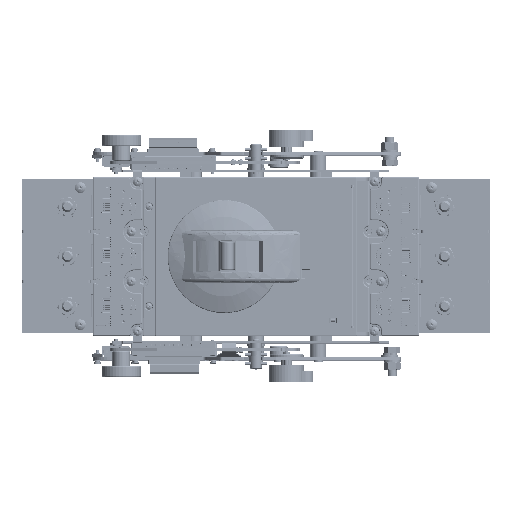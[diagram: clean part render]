
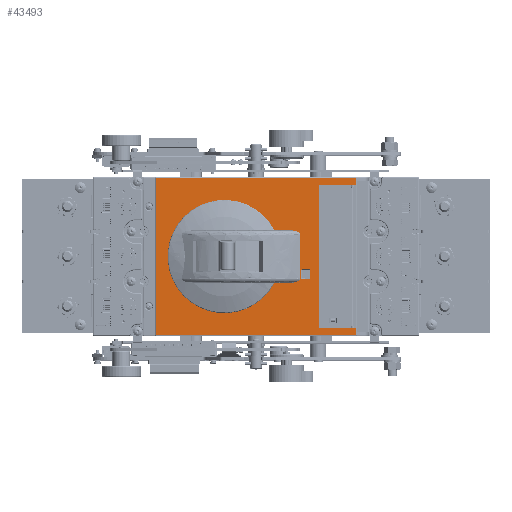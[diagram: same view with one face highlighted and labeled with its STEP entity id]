
A CAD part, top view. The second image highlights one B-rep face of the part: STEP entity #43493.
In plain terms, the highlighted planar face has unit normal (0, 0, 1).
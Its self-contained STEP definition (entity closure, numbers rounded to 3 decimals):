
#43493=ADVANCED_FACE('',(#101062,#101063,#101064),#68351,.T.);
#68351=PLANE('',#499178);
#83766=CIRCLE('',#499171,1.);
#83767=CIRCLE('',#499172,1.);
#83768=CIRCLE('',#499173,1.);
#83769=CIRCLE('',#499174,1.);
#83770=CIRCLE('',#499175,50.);
#83771=CIRCLE('',#499176,1.);
#83772=CIRCLE('',#499177,1.);
#101062=FACE_BOUND('',#115495,.T.);
#101063=FACE_BOUND('',#115496,.T.);
#101064=FACE_BOUND('',#115497,.T.);
#115495=EDGE_LOOP('',(#261193,#261194,#261195,#261196,#261197,#261198,#261199,
#261200));
#115496=EDGE_LOOP('',(#261201,#261202,#261203,#261204,#261205,#261206));
#115497=EDGE_LOOP('',(#261207,#261208,#261209,#261210,#261211,#261212,#261213,
#261214,#261215,#261216));
#153215=LINE('',#714080,#198606);
#153216=LINE('',#714085,#198607);
#153217=LINE('',#714089,#198608);
#153218=LINE('',#714093,#198609);
#153219=LINE('',#714099,#198610);
#153220=LINE('',#714110,#198611);
#153221=LINE('',#714121,#198612);
#153222=LINE('',#714122,#198613);
#153223=LINE('',#714125,#198614);
#153224=LINE('',#714127,#198615);
#153225=LINE('',#714129,#198616);
#153226=LINE('',#714131,#198617);
#153227=LINE('',#714133,#198618);
#153228=LINE('',#714137,#198619);
#153229=LINE('',#714141,#198620);
#198606=VECTOR('',#565952,1.);
#198607=VECTOR('',#565955,1.);
#198608=VECTOR('',#565958,1.);
#198609=VECTOR('',#565961,1.);
#198610=VECTOR('',#565966,1.);
#198611=VECTOR('',#565967,1.);
#198612=VECTOR('',#565968,1.);
#198613=VECTOR('',#565969,1.);
#198614=VECTOR('',#565970,1.);
#198615=VECTOR('',#565971,1.);
#198616=VECTOR('',#565972,1.);
#198617=VECTOR('',#565973,1.);
#198618=VECTOR('',#565974,1.);
#198619=VECTOR('',#565977,1.);
#198620=VECTOR('',#565980,1.);
#261193=ORIENTED_EDGE('',*,*,#433195,.T.);
#261194=ORIENTED_EDGE('',*,*,#433196,.T.);
#261195=ORIENTED_EDGE('',*,*,#433197,.T.);
#261196=ORIENTED_EDGE('',*,*,#433198,.T.);
#261197=ORIENTED_EDGE('',*,*,#433199,.T.);
#261198=ORIENTED_EDGE('',*,*,#433200,.T.);
#261199=ORIENTED_EDGE('',*,*,#433201,.T.);
#261200=ORIENTED_EDGE('',*,*,#433202,.T.);
#261201=ORIENTED_EDGE('',*,*,#433203,.T.);
#261202=ORIENTED_EDGE('',*,*,#433204,.F.);
#261203=ORIENTED_EDGE('',*,*,#433205,.T.);
#261204=ORIENTED_EDGE('',*,*,#433206,.T.);
#261205=ORIENTED_EDGE('',*,*,#433207,.T.);
#261206=ORIENTED_EDGE('',*,*,#433208,.T.);
#261207=ORIENTED_EDGE('',*,*,#433209,.T.);
#261208=ORIENTED_EDGE('',*,*,#433210,.T.);
#261209=ORIENTED_EDGE('',*,*,#433211,.T.);
#261210=ORIENTED_EDGE('',*,*,#433212,.T.);
#261211=ORIENTED_EDGE('',*,*,#433213,.T.);
#261212=ORIENTED_EDGE('',*,*,#433214,.T.);
#261213=ORIENTED_EDGE('',*,*,#433215,.T.);
#261214=ORIENTED_EDGE('',*,*,#433216,.T.);
#261215=ORIENTED_EDGE('',*,*,#433217,.T.);
#261216=ORIENTED_EDGE('',*,*,#433218,.T.);
#382600=VERTEX_POINT('',#714081);
#382601=VERTEX_POINT('',#714082);
#382602=VERTEX_POINT('',#714084);
#382603=VERTEX_POINT('',#714086);
#382604=VERTEX_POINT('',#714088);
#382605=VERTEX_POINT('',#714090);
#382606=VERTEX_POINT('',#714092);
#382607=VERTEX_POINT('',#714094);
#382608=VERTEX_POINT('',#714097);
#382609=VERTEX_POINT('',#714098);
#382610=VERTEX_POINT('',#714100);
#382611=VERTEX_POINT('',#714109);
#382612=VERTEX_POINT('',#714111);
#382613=VERTEX_POINT('',#714120);
#382614=VERTEX_POINT('',#714123);
#382615=VERTEX_POINT('',#714124);
#382616=VERTEX_POINT('',#714126);
#382617=VERTEX_POINT('',#714128);
#382618=VERTEX_POINT('',#714130);
#382619=VERTEX_POINT('',#714132);
#382620=VERTEX_POINT('',#714134);
#382621=VERTEX_POINT('',#714136);
#382622=VERTEX_POINT('',#714138);
#382623=VERTEX_POINT('',#714140);
#433195=EDGE_CURVE('',#382600,#382601,#153215,.T.);
#433196=EDGE_CURVE('',#382601,#382602,#83766,.T.);
#433197=EDGE_CURVE('',#382602,#382603,#153216,.T.);
#433198=EDGE_CURVE('',#382603,#382604,#83767,.T.);
#433199=EDGE_CURVE('',#382604,#382605,#153217,.T.);
#433200=EDGE_CURVE('',#382605,#382606,#83768,.T.);
#433201=EDGE_CURVE('',#382606,#382607,#153218,.T.);
#433202=EDGE_CURVE('',#382607,#382600,#83769,.T.);
#433203=EDGE_CURVE('',#382608,#382609,#83770,.T.);
#433204=EDGE_CURVE('',#382610,#382609,#153219,.T.);
#433205=EDGE_CURVE('',#382610,#382611,#487762,.T.);
#433206=EDGE_CURVE('',#382611,#382612,#153220,.T.);
#433207=EDGE_CURVE('',#382612,#382613,#487763,.T.);
#433208=EDGE_CURVE('',#382613,#382608,#153221,.T.);
#433209=EDGE_CURVE('',#382614,#382615,#153222,.T.);
#433210=EDGE_CURVE('',#382615,#382616,#153223,.T.);
#433211=EDGE_CURVE('',#382616,#382617,#153224,.T.);
#433212=EDGE_CURVE('',#382617,#382618,#153225,.T.);
#433213=EDGE_CURVE('',#382618,#382619,#153226,.T.);
#433214=EDGE_CURVE('',#382619,#382620,#153227,.T.);
#433215=EDGE_CURVE('',#382620,#382621,#83771,.T.);
#433216=EDGE_CURVE('',#382621,#382622,#153228,.T.);
#433217=EDGE_CURVE('',#382622,#382623,#83772,.T.);
#433218=EDGE_CURVE('',#382623,#382614,#153229,.T.);
#487762=B_SPLINE_CURVE_WITH_KNOTS('',3,(#714101,#714102,#714103,#714104,
#714105,#714106,#714107,#714108),.UNSPECIFIED.,.F.,.F.,(4,2,2,4),(0.,0.5,
0.75,1.),.UNSPECIFIED.);
#487763=B_SPLINE_CURVE_WITH_KNOTS('',3,(#714112,#714113,#714114,#714115,
#714116,#714117,#714118,#714119),.UNSPECIFIED.,.F.,.F.,(4,2,2,4),(0.,0.25,
0.5,1.),.UNSPECIFIED.);
#499171=AXIS2_PLACEMENT_3D('',#714083,#565953,#565954);
#499172=AXIS2_PLACEMENT_3D('',#714087,#565956,#565957);
#499173=AXIS2_PLACEMENT_3D('',#714091,#565959,#565960);
#499174=AXIS2_PLACEMENT_3D('',#714095,#565962,#565963);
#499175=AXIS2_PLACEMENT_3D('',#714096,#565964,#565965);
#499176=AXIS2_PLACEMENT_3D('',#714135,#565975,#565976);
#499177=AXIS2_PLACEMENT_3D('',#714139,#565978,#565979);
#499178=AXIS2_PLACEMENT_3D('',#714142,#565981,#565982);
#565952=DIRECTION('',(1.,0.,0.));
#565953=DIRECTION('',(0.,0.,-1.));
#565954=DIRECTION('',(1.,0.,0.));
#565955=DIRECTION('',(0.,-1.,0.));
#565956=DIRECTION('',(0.,0.,-1.));
#565957=DIRECTION('',(1.,0.,0.));
#565958=DIRECTION('',(-1.,0.,0.));
#565959=DIRECTION('',(0.,0.,-1.));
#565960=DIRECTION('',(1.,0.,0.));
#565961=DIRECTION('',(0.,1.,0.));
#565962=DIRECTION('',(0.,0.,-1.));
#565963=DIRECTION('',(1.,0.,0.));
#565964=DIRECTION('',(0.,0.,-1.));
#565965=DIRECTION('',(-1.,0.,0.));
#565966=DIRECTION('',(-1.,0.,0.));
#565967=DIRECTION('',(0.,-1.,0.));
#565968=DIRECTION('',(-1.,0.,0.));
#565969=DIRECTION('',(0.,1.,0.));
#565970=DIRECTION('',(-1.,0.,0.));
#565971=DIRECTION('',(0.,-1.,0.));
#565972=DIRECTION('',(1.,0.,0.));
#565973=DIRECTION('',(0.,1.,0.));
#565974=DIRECTION('',(-1.,0.,0.));
#565975=DIRECTION('',(0.,0.,-1.));
#565976=DIRECTION('',(1.,0.,0.));
#565977=DIRECTION('',(0.,1.,0.));
#565978=DIRECTION('',(0.,0.,-1.));
#565979=DIRECTION('',(1.,0.,0.));
#565980=DIRECTION('',(1.,0.,0.));
#565981=DIRECTION('',(0.,0.,1.));
#565982=DIRECTION('',(1.,0.,0.));
#714080=CARTESIAN_POINT('',(192.512,56.502,210.698));
#714081=CARTESIAN_POINT('',(186.512,56.502,210.698));
#714082=CARTESIAN_POINT('',(192.512,56.502,210.698));
#714083=CARTESIAN_POINT('',(192.512,55.502,210.698));
#714084=CARTESIAN_POINT('',(193.512,55.502,210.698));
#714085=CARTESIAN_POINT('',(193.512,48.502,210.698));
#714086=CARTESIAN_POINT('',(193.512,48.502,210.698));
#714087=CARTESIAN_POINT('',(192.512,48.502,210.698));
#714088=CARTESIAN_POINT('',(192.512,47.502,210.698));
#714089=CARTESIAN_POINT('',(186.512,47.502,210.698));
#714090=CARTESIAN_POINT('',(186.512,47.502,210.698));
#714091=CARTESIAN_POINT('',(186.512,48.502,210.698));
#714092=CARTESIAN_POINT('',(185.512,48.502,210.698));
#714093=CARTESIAN_POINT('',(185.512,55.502,210.698));
#714094=CARTESIAN_POINT('',(185.512,55.502,210.698));
#714095=CARTESIAN_POINT('',(186.512,55.502,210.698));
#714096=CARTESIAN_POINT('',(117.512,67.502,210.698));
#714097=CARTESIAN_POINT('',(161.908,44.502,210.698));
#714098=CARTESIAN_POINT('',(161.908,90.502,210.698));
#714099=CARTESIAN_POINT('',(184.284,90.502,210.698));
#714100=CARTESIAN_POINT('',(177.844,90.502,210.698));
#714101=CARTESIAN_POINT('',(177.844,90.502,210.698));
#714102=CARTESIAN_POINT('',(179.238,90.502,210.698));
#714103=CARTESIAN_POINT('',(180.62,90.265,210.698));
#714104=CARTESIAN_POINT('',(182.492,89.347,210.698));
#714105=CARTESIAN_POINT('',(183.077,88.941,210.698));
#714106=CARTESIAN_POINT('',(183.979,87.881,210.698));
#714107=CARTESIAN_POINT('',(184.284,87.207,210.698));
#714108=CARTESIAN_POINT('',(184.284,86.502,210.698));
#714109=CARTESIAN_POINT('',(184.284,86.502,210.698));
#714110=CARTESIAN_POINT('',(184.284,90.502,210.698));
#714111=CARTESIAN_POINT('',(184.284,48.502,210.698));
#714112=CARTESIAN_POINT('',(184.284,48.502,210.698));
#714113=CARTESIAN_POINT('',(184.284,47.797,210.698));
#714114=CARTESIAN_POINT('',(183.985,47.131,210.698));
#714115=CARTESIAN_POINT('',(183.08,46.063,210.698));
#714116=CARTESIAN_POINT('',(182.497,45.66,210.698));
#714117=CARTESIAN_POINT('',(180.636,44.744,210.698));
#714118=CARTESIAN_POINT('',(179.237,44.502,210.698));
#714119=CARTESIAN_POINT('',(177.844,44.502,210.698));
#714120=CARTESIAN_POINT('',(177.844,44.502,210.698));
#714121=CARTESIAN_POINT('',(184.284,44.502,210.698));
#714122=CARTESIAN_POINT('',(234.012,136.702,210.698));
#714123=CARTESIAN_POINT('',(234.012,130.702,210.698));
#714124=CARTESIAN_POINT('',(234.012,137.002,210.698));
#714125=CARTESIAN_POINT('',(145.512,137.002,210.698));
#714126=CARTESIAN_POINT('',(57.012,137.002,210.698));
#714127=CARTESIAN_POINT('',(57.012,-1.998,210.698));
#714128=CARTESIAN_POINT('',(57.012,-1.998,210.698));
#714129=CARTESIAN_POINT('',(145.512,-1.998,210.698));
#714130=CARTESIAN_POINT('',(234.012,-1.998,210.698));
#714131=CARTESIAN_POINT('',(234.012,4.302,210.698));
#714132=CARTESIAN_POINT('',(234.012,4.302,210.698));
#714133=CARTESIAN_POINT('',(231.512,4.302,210.698));
#714134=CARTESIAN_POINT('',(202.112,4.302,210.698));
#714135=CARTESIAN_POINT('',(202.112,5.302,210.698));
#714136=CARTESIAN_POINT('',(201.112,5.302,210.698));
#714137=CARTESIAN_POINT('',(201.112,4.302,210.698));
#714138=CARTESIAN_POINT('',(201.112,129.702,210.698));
#714139=CARTESIAN_POINT('',(202.112,129.702,210.698));
#714140=CARTESIAN_POINT('',(202.112,130.702,210.698));
#714141=CARTESIAN_POINT('',(201.112,130.702,210.698));
#714142=CARTESIAN_POINT('',(145.512,89.502,210.698));
